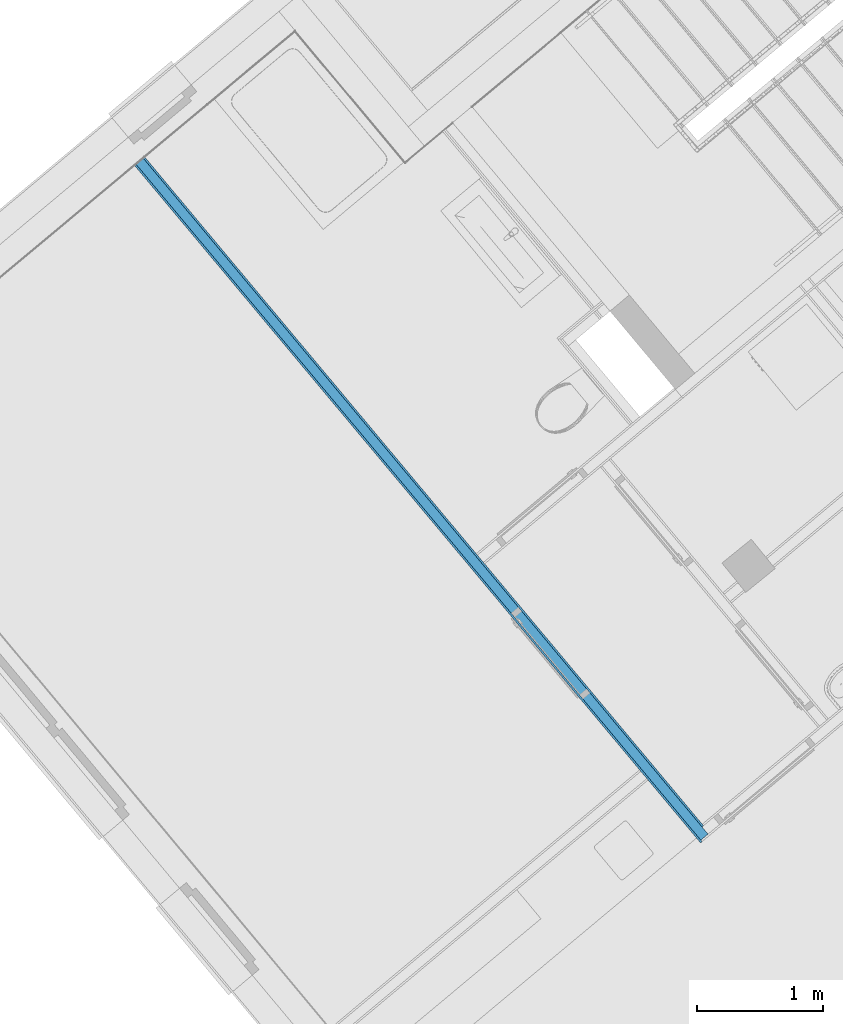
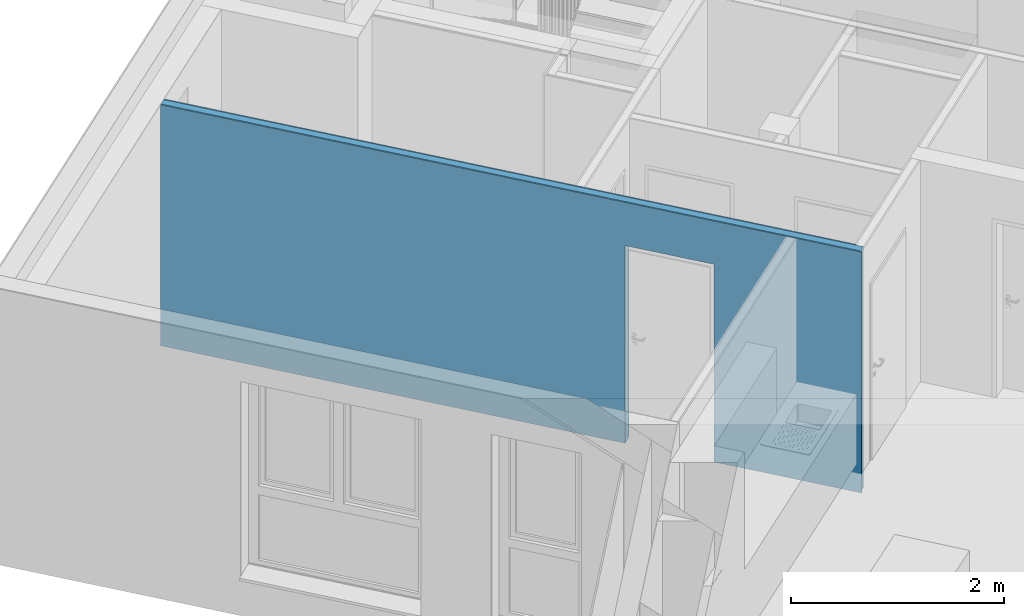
# One storey, part 3 of 50: 3 building element parts, 1 opening, 1 element without a shape of its own.
"""IFC4 building model written with IfcOpenShell, lengths in metres."""

import ifcopenshell
import ifcopenshell.guid

model = None  # the IFC model being written
_history = None  # IfcOwnerHistory: only IFC2X3 demands one
_inside = {}  # id of a spatial element -> (the spatial element, [elements in it])
_under = {}  # id of a project, library or spatial element -> (it, [spatial elements below it])
_declared = {}  # id of a project -> (the project, [libraries it declares])
_typed = {}  # id of a type object -> (the type object, [elements of that type])
_made_of = {}  # id of a material, layer set ... -> (it, [elements and type objects made of it])


def new_model(schema):
    """Start an empty IFC model of exactly this schema.

    Asked for "IFC4X3", IfcOpenShell would pick the latest addendum, in which some entities
    have other attributes; the version numbers below select the first issue.
    IFC2X3 requires an IfcOwnerHistory on every rooted entity: one is made here for all.
    """
    global model, _history
    if schema == "IFC4X3":
        model = ifcopenshell.file(schema_version=(4, 3, 0, 0))
    else:
        model = ifcopenshell.file(schema=schema)
    _inside.clear()
    _under.clear()
    _declared.clear()
    _typed.clear()
    _made_of.clear()
    _history = None
    if model.schema == "IFC2X3":
        org = make("IfcOrganization", Name="unknown")
        user = make(
            "IfcPersonAndOrganization",
            ThePerson=make("IfcPerson", FamilyName="unknown"),
            TheOrganization=org,
        )
        app = make(
            "IfcApplication",
            ApplicationDeveloper=org,
            Version="unknown",
            ApplicationFullName="unknown",
            ApplicationIdentifier="unknown",
        )
        _history = make(
            "IfcOwnerHistory",
            OwningUser=user,
            OwningApplication=app,
            ChangeAction="ADDED",
            CreationDate=0,
        )
    return model


def make(cls, **values):
    """One entity of the class cls with the attributes given. An attribute that is None is left unset."""
    return model.create_entity(
        cls, **{name: value for name, value in values.items() if value is not None}
    )


def entity(cls, *values):
    """Any entity or typed value of the class cls, its attributes in the order of the schema. None: left unset."""
    e = model.create_entity(cls)
    for i, value in enumerate(values):
        if value is not None:
            e[i] = value
    return e


def rooted(cls, **values):
    """An entity with a GlobalId (a new one), such as an element, a storey or a relation."""
    return make(cls, GlobalId=ifcopenshell.guid.new(), OwnerHistory=_history, **values)


def si_unit(unit_type, name, prefix=None):
    """IfcSIUnit, for example si_unit("LENGTHUNIT", "METRE", prefix="MILLI")."""
    return make("IfcSIUnit", UnitType=unit_type, Prefix=prefix, Name=name)


def converted_unit(unit_type, name, factor, base, dimensions=None, offset=None):
    """IfcConversionBasedUnit, such as the inch: factor (a typed value) times the base unit."""
    return make(
        "IfcConversionBasedUnit"
        if offset is None
        else "IfcConversionBasedUnitWithOffset",
        ConversionOffset=offset,
        Dimensions=None
        if dimensions is None
        else entity("IfcDimensionalExponents", *dimensions),
        UnitType=unit_type,
        Name=name,
        ConversionFactor=make(
            "IfcMeasureWithUnit", ValueComponent=factor, UnitComponent=base
        ),
    )


def derived_unit(unit_type, elements):
    """IfcDerivedUnit: a product of units, each with its exponent."""
    return make(
        "IfcDerivedUnit",
        Elements=[
            make("IfcDerivedUnitElement", Unit=unit, Exponent=power)
            for unit, power in elements
        ],
        UnitType=unit_type,
    )


def assignment(units):
    """IfcUnitAssignment: the units of a project."""
    return None if units is None else make("IfcUnitAssignment", Units=units)


def point(xyz):
    """IfcCartesianPoint."""
    return None if xyz is None else make("IfcCartesianPoint", Coordinates=xyz)


def direction(xyz):
    """IfcDirection."""
    return None if xyz is None else make("IfcDirection", DirectionRatios=xyz)


def frame(location, z_axis=None, x_axis=None):
    """IfcAxis2Placement3D, a coordinate frame: its origin and axes. An axis left out is left unset."""
    return make(
        "IfcAxis2Placement3D",
        Location=point(location),
        Axis=direction(z_axis),
        RefDirection=direction(x_axis),
    )


def origin_with_axes():
    """The frame at (0, 0, 0) with the z axis (0, 0, 1) and the x axis (1, 0, 0) written out."""
    return frame((0.0, 0.0, 0.0), z_axis=(0.0, 0.0, 1.0), x_axis=(1.0, 0.0, 0.0))


def place(relative_to, where):
    """IfcLocalPlacement: puts the frame where relative to a parent placement (None: the world)."""
    return make(
        "IfcLocalPlacement", PlacementRelTo=relative_to, RelativePlacement=where
    )


def context(
    kind, dimensions, precision=None, world=None, true_north=None, identifier=None
):
    """IfcGeometricRepresentationContext, for example the 3D "Model" context."""
    return make(
        "IfcGeometricRepresentationContext",
        ContextIdentifier=identifier,
        ContextType=kind,
        CoordinateSpaceDimension=dimensions,
        Precision=precision,
        WorldCoordinateSystem=world,
        TrueNorth=true_north,
    )


def subcontext(parent, identifier, kind, view, scale=None):
    """IfcGeometricRepresentationSubContext, for example "Body" below "Model"."""
    return make(
        "IfcGeometricRepresentationSubContext",
        ContextIdentifier=identifier,
        ContextType=kind,
        ParentContext=parent,
        TargetScale=scale,
        TargetView=view,
    )


def project(units=None, contexts=None):
    """IfcProject with its units and contexts."""
    return rooted(
        "IfcProject",
        Name="project",
        RepresentationContexts=contexts,
        UnitsInContext=assignment(units),
    )


def spatial(cls, under=None, at=None, **own):
    """A site, building, storey or space (cls), placed at a placement, below another one or the project."""
    s = rooted(cls, ObjectPlacement=at, **own)
    if under is not None:
        _under.setdefault(under.id(), (under, []))[1].append(s)
    return s


def point_list(points):
    """IfcCartesianPointList2D or 3D."""
    cls = (
        "IfcCartesianPointList2D" if len(points[0]) == 2 else "IfcCartesianPointList3D"
    )
    return make(cls, CoordList=points)


def polygons(points, faces, closed=None, point_numbers=None):
    """IfcPolygonalFaceSet: a face is its outer loop, then its inner loops; points numbered from 1."""
    made = []
    for loops in faces:
        if len(loops) == 1:
            made.append(make("IfcIndexedPolygonalFace", CoordIndex=loops[0]))
        else:
            made.append(
                make(
                    "IfcIndexedPolygonalFaceWithVoids",
                    CoordIndex=loops[0],
                    InnerCoordIndices=loops[1:],
                )
            )
    return make(
        "IfcPolygonalFaceSet",
        Coordinates=point_list(points),
        Closed=closed,
        Faces=made,
        PnIndex=point_numbers,
    )


def shape(context_of_items, identifier, shape_type, items):
    """IfcShapeRepresentation: the items that make up one representation, for example the "Body"."""
    return make(
        "IfcShapeRepresentation",
        ContextOfItems=context_of_items,
        RepresentationIdentifier=identifier,
        RepresentationType=shape_type,
        Items=items,
    )


def material(Name=None, Category=None):
    """IfcMaterial."""
    return make("IfcMaterial", Name=Name, Category=Category)


def made_of(thing, what):
    """Note that an element or type object is made of a material, layer set ...; save() writes the relation."""
    if what is not None:
        _made_of.setdefault(what.id(), (what, []))[1].append(thing)
    return thing


def type_object(cls, material=None, **own):
    """A type object (cls), such as IfcWallType, which elements share."""
    return made_of(rooted(cls, **own), material)


def element(
    cls,
    number,
    at=None,
    inside=None,
    cuts=None,
    type_object=None,
    material=None,
    context=None,
    identifier="Body",
    shape_type=None,
    held_by="IfcProductDefinitionShape",
    body=None,
    shapes=None,
    **own,
):
    """One element of the class cls, such as IfcWall. Its Tag is "e" and its number.

    at: its placement. inside: the storey or other place that contains it. cuts: it is an
    opening in that element (IfcRelVoidsElement). A single representation is given by context,
    identifier, shape_type and body (its items); several are given by shapes. held_by: the class
    of the entity that holds the representations. save() writes the other relations.
    """
    e = rooted(cls, Tag="e%d" % number, ObjectPlacement=at, **own)
    if body is not None:
        shapes = [shape(context, identifier, shape_type, body)]
    if shapes is not None:
        e.Representation = make(held_by, Representations=shapes)
    if inside is not None:
        _inside.setdefault(inside.id(), (inside, []))[1].append(e)
    if cuts is not None:
        rooted(
            "IfcRelVoidsElement", RelatingBuildingElement=cuts, RelatedOpeningElement=e
        )
    if type_object is not None:
        _typed.setdefault(type_object.id(), (type_object, []))[1].append(e)
    return made_of(e, material)


def aggregate(whole, parts):
    """IfcRelAggregates: a whole, such as a stair, and the parts it consists of."""
    return rooted("IfcRelAggregates", RelatingObject=whole, RelatedObjects=parts)


def save(model, path):
    """Write the relations noted so far, then the file.

    IfcRelAggregates (storeys below a building ...), IfcRelContainedInSpatialStructure (elements
    in a storey), IfcRelDefinesByType, IfcRelAssociatesMaterial and IfcRelDeclares: one each for
    every whole, place, type object, material and project.
    """
    for whole, parts in _under.values():
        aggregate(whole, parts)
    for where, things in _inside.values():
        rooted(
            "IfcRelContainedInSpatialStructure",
            RelatedElements=things,
            RelatingStructure=where,
        )
    for kind, things in _typed.values():
        rooted("IfcRelDefinesByType", RelatedObjects=things, RelatingType=kind)
    for what, things in _made_of.values():
        rooted("IfcRelAssociatesMaterial", RelatedObjects=things, RelatingMaterial=what)
    for by, libraries in _declared.values():
        rooted("IfcRelDeclares", RelatingContext=by, RelatedDefinitions=libraries)
    model.write(path)


model = new_model("IFC4")

# Units and contexts
model_context = context("Model", 3, precision=1e-05, world=origin_with_axes(), true_north=direction((0.0, 1.0)))
body_context = subcontext(model_context, "Body", "Model", "MODEL_VIEW")
ifc_project = project(units=[si_unit("LENGTHUNIT", "METRE"), si_unit("AREAUNIT", "SQUARE_METRE"), si_unit("VOLUMEUNIT", "CUBIC_METRE"), converted_unit("PLANEANGLEUNIT", "DEGREE", entity("IfcPlaneAngleMeasure", 0.0174532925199), si_unit("PLANEANGLEUNIT", "RADIAN"), dimensions=[0, 0, 0, 0, 0, 0, 0]), converted_unit("TIMEUNIT", "Year", entity("IfcTimeMeasure", 31556926.0), si_unit("TIMEUNIT", "SECOND"), dimensions=[0, 0, 1, 0, 0, 0, 0]), si_unit("MASSUNIT", "GRAM", prefix="KILO"), si_unit("THERMODYNAMICTEMPERATUREUNIT", "DEGREE_CELSIUS"), si_unit("LUMINOUSINTENSITYUNIT", "LUMEN"), si_unit("ENERGYUNIT", "JOULE", prefix="MEGA"), derived_unit("THERMALCONDUCTANCEUNIT", [(si_unit("POWERUNIT", "WATT"), 1), (si_unit("LENGTHUNIT", "METRE"), -1), (si_unit("THERMODYNAMICTEMPERATUREUNIT", "KELVIN"), -1)]), derived_unit("SPECIFICHEATCAPACITYUNIT", [(si_unit("ENERGYUNIT", "JOULE"), 1), (si_unit("MASSUNIT", "GRAM", prefix="KILO"), -1), (si_unit("THERMODYNAMICTEMPERATUREUNIT", "KELVIN"), -1)]), derived_unit("MASSDENSITYUNIT", [(si_unit("MASSUNIT", "GRAM", prefix="KILO"), 1), (si_unit("VOLUMEUNIT", "CUBIC_METRE"), -1)])], contexts=[model_context])

# Site, building, storey
site_placement = place(None, frame((-0.00153261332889, -0.00661245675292, 0.0), z_axis=(0.0, 0.0, 1.0), x_axis=(1.0, 0.0, 0.0)))
site = spatial("IfcSite", under=ifc_project, at=site_placement, Name="Site", CompositionType="ELEMENT")
building_placement = place(site_placement, origin_with_axes())
building = spatial("IfcBuilding", under=site, at=building_placement, Name="Building", CompositionType="ELEMENT")
storey_placement = place(building_placement, frame((0.0, 0.0, 2.74), z_axis=(0.0, 0.0, 1.0), x_axis=(1.0, 0.0, 0.0)))
storey = spatial("IfcBuildingStorey", under=building, at=storey_placement, Name="OG1", CompositionType="ELEMENT", Elevation=2.74)

# Wall, opening, building element parts
wall_type = type_object("IfcWallType", Name="IW LB 01 Leichtbautrennwand einfach 10,5 cm 105", PredefinedType="NOTDEFINED")
wall_placement = place(storey_placement, frame((-6.64013670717, 22.2194246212, 0.0), z_axis=(0.0, 0.0, 1.0), x_axis=(0.641209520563, -0.767365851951, 0.0)))
wall = element("IfcWall", 1, at=wall_placement, inside=storey, type_object=wall_type, Name="Wand-012", PredefinedType="NOTDEFINED")
opening_placement = place(wall_placement, frame((5.2926346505, 0.0, 0.22), z_axis=(0.0, 0.0, 1.0), x_axis=(1.0, 0.0, 0.0)))
element("IfcOpeningElement", 2, at=opening_placement, cuts=wall, Name="Tür-016", context=body_context, identifier="Reference", shape_type="Tessellation", body=[
    polygons([(0.445, 3.60289339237, 2.045), (0.445, 3.60289339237, -0.22), (-0.445, 3.60289339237, -0.22), (-0.445, 3.60289339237, 2.045), (0.445, -3.49789339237, 2.045), (0.445, -3.49789339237, -0.22), (-0.445, -3.49789339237, -0.22), (-0.445, -3.49789339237, 2.045)], [[[1, 2, 3, 4]], [[5, 6, 2, 1]], [[6, 7, 3, 2]], [[7, 8, 4, 3]], [[8, 5, 1, 4]], [[7, 6, 5, 8]]], closed=True),
])
ifc_material_1 = material(Name="Gipskarton")
building_element_part_1_placement = place(wall_placement, origin_with_axes())
building_element_part_1 = element("IfcBuildingElementPart", 3, at=building_element_part_1_placement, material=ifc_material_1, Name="Gipskarton", PredefinedType="NOTDEFINED", context=body_context, shape_type="Tessellation", body=[
    polygons([(4.8476346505, 0.105, 2.265), (4.8476346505, 0.105, 0.22), (4.84763465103, 0.105, 0.0), (0.205013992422, 0.105, 0.0), (0.205013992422, 0.105, 2.76), (7.12189601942, 0.105, 2.76), (7.12189601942, 0.105, 0.0), (5.7376346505, 0.105, 0.0), (5.7376346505, 0.105, 0.22), (5.7376346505, 0.105, 2.265), (4.8476346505, 0.09, 2.265), (4.8476346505, 0.09, 0.22), (4.84763465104, 0.09, 0.0), (0.20501393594, 0.09, 0.0), (0.20501393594, 0.09, 2.76), (7.12189601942, 0.09, 2.76), (7.12189601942, 0.09, 0.0), (5.7376346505, 0.09, 0.0), (5.7376346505, 0.09, 0.22), (5.7376346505, 0.09, 2.265)], [[[1, 2, 3, 4, 5, 6, 7, 8, 9, 10]], [[2, 1, 11, 12]], [[2, 12, 13, 3]], [[13, 14, 4, 3]], [[4, 14, 15, 5]], [[6, 5, 15, 16]], [[7, 6, 16, 17]], [[8, 7, 17, 18]], [[19, 9, 8, 18]], [[10, 9, 19, 20]], [[1, 10, 20, 11]], [[20, 19, 18, 17, 16, 15, 14, 13, 12, 11]]], closed=True),
])
ifc_material_2 = material(Name="Mineralwolle weich")
building_element_part_2_placement = place(wall_placement, origin_with_axes())
building_element_part_2 = element("IfcBuildingElementPart", 4, at=building_element_part_2_placement, material=ifc_material_2, Name="Mineralwolle weich", PredefinedType="NOTDEFINED", context=body_context, shape_type="Tessellation", body=[
    polygons([(4.8476346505, 0.09, 2.265), (4.8476346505, 0.09, 0.22), (4.84763465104, 0.09, 0.0), (0.20501393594, 0.09, 0.0), (0.20501393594, 0.09, 2.76), (7.19689601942, 0.09, 2.76), (7.19689601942, 0.09, 0.0), (5.7376346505, 0.09, 0.0), (5.7376346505, 0.09, 0.22), (5.7376346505, 0.09, 2.265), (4.8476346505, 0.015, 2.265), (4.8476346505, 0.015, 0.22), (4.84763465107, 0.015, 0.0), (0.205013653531, 0.015, 0.0), (0.205013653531, 0.015, 2.76), (7.19689601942, 0.015, 2.76), (7.19689601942, 0.015, 0.0), (5.7376346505, 0.015, 0.0), (5.7376346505, 0.015, 0.22), (5.7376346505, 0.015, 2.265)], [[[1, 2, 3, 4, 5, 6, 7, 8, 9, 10]], [[2, 1, 11, 12]], [[2, 12, 13, 3]], [[13, 14, 4, 3]], [[4, 14, 15, 5]], [[6, 5, 15, 16]], [[7, 6, 16, 17]], [[8, 7, 17, 18]], [[19, 9, 8, 18]], [[10, 9, 19, 20]], [[1, 10, 20, 11]], [[20, 19, 18, 17, 16, 15, 14, 13, 12, 11]]], closed=True),
])
building_element_part_3_placement = place(wall_placement, origin_with_axes())
building_element_part_3 = element("IfcBuildingElementPart", 5, at=building_element_part_3_placement, material=ifc_material_1, Name="Gipskarton", PredefinedType="NOTDEFINED", context=body_context, shape_type="Tessellation", body=[
    polygons([(4.8476346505, 0.015, 2.265), (4.8476346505, 0.015, 0.22), (4.84763465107, 0.015, 0.0), (0.205013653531, 0.015, 0.0), (0.205013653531, 0.015, 2.76), (7.21189601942, 0.015, 2.76), (7.21189601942, 0.015, 0.0), (5.7376346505, 0.015, 0.0), (5.7376346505, 0.015, 0.22), (5.7376346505, 0.015, 2.265), (4.8476346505, -2.18957616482e-08, 2.265), (4.8476346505, -2.36324080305e-08, 0.22), (4.84763465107, -2.36324044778e-08, 0.0), (0.205013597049, 0.0, 0.0), (0.205013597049, 0.0, 2.76), (7.21189601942, 0.0, 2.76), (7.21189601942, 0.0, 0.0), (5.7376346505, -2.18957616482e-08, 0.0), (5.7376346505, -2.18957616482e-08, 0.22), (5.7376346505, -2.18957616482e-08, 2.265)], [[[1, 2, 3, 4, 5, 6, 7, 8, 9, 10]], [[2, 1, 11, 12]], [[2, 12, 13, 3]], [[13, 14, 4, 3]], [[4, 14, 15, 5]], [[6, 5, 15, 16]], [[7, 6, 16, 17]], [[8, 7, 17, 18]], [[19, 9, 8, 18]], [[10, 9, 19, 20]], [[1, 10, 20, 11]], [[20, 19, 18, 17, 16, 15, 14, 13, 12, 11]]], closed=True),
])
aggregate(wall, [building_element_part_1, building_element_part_2, building_element_part_3])

save(model, "model.ifc")
